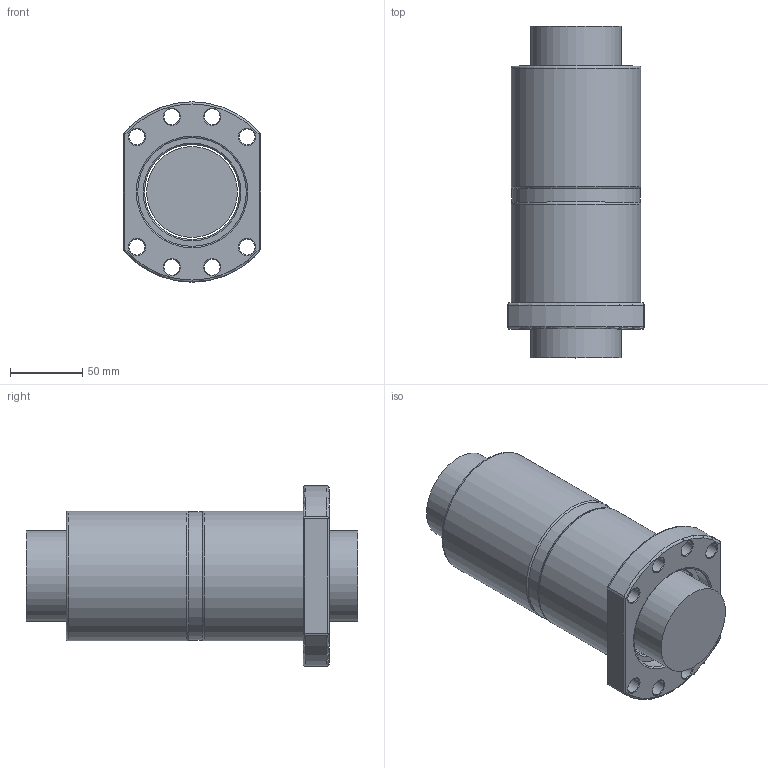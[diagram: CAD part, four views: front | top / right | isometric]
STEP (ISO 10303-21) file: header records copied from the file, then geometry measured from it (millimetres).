
FILE_DESCRIPTION(/* description */ (''),/* implementation_level */ '2;1');
FILE_NAME(/* name */ '6310.prt.step',/* time_stamp */ '2008-12-05T09:28:16+08:00',/* author */ (''),/* organization */ (''),/* preprocessor_version */ 'ST-DEVELOPER v11',/* originating_system */ 'SIEMENS UGS NX 6.0',/* authorisation */ '');
FILE_SCHEMA (('AUTOMOTIVE_DESIGN { 1 0 10303 214 1 1 1 1 }'));
Length unit declared in the file: millimetre
Products named in the file (1): 6310
Bounding box: 95 x 230 x 125 mm (x, y, z)
Volume: 1285231.3 mm3; surface area: 170577.1 mm2
Topology: 4 solids, 4 shells, 75 faces, 166 edges, 104 vertices
Faces by surface type: plane 23, cylinder 21, cone 20, torus 11
Full cylindrical faces by diameter (mm): 11 x8, 62.95 x1, 65.7 x1, 66 x1, 67 x1, 75.3 x4, 89 x1, 90 x2
Entity records: 2073 total; most frequent: CARTESIAN_POINT 526, DIRECTION 322, ORIENTED_EDGE 226, AXIS2_PLACEMENT_3D 149, EDGE_LOOP 148, FACE_BOUND 130, EDGE_CURVE 113, VERTEX_POINT 97
